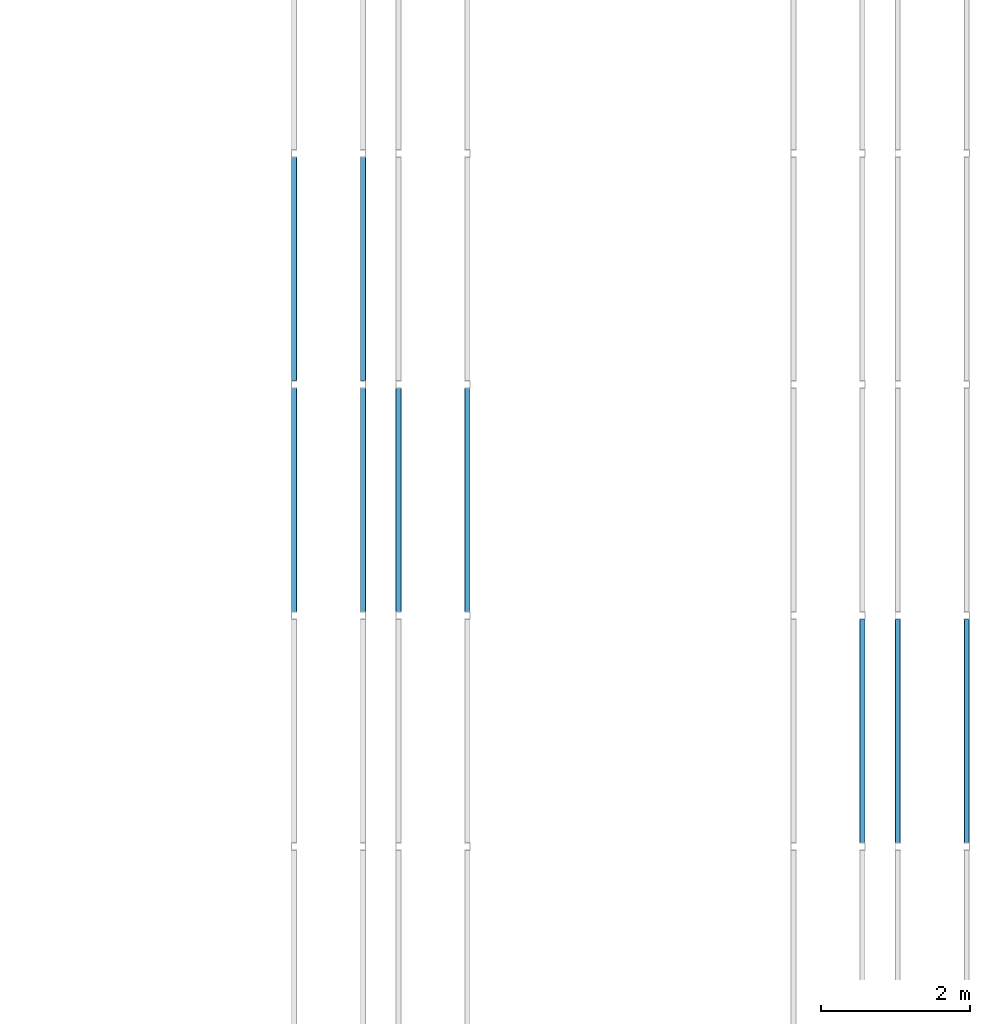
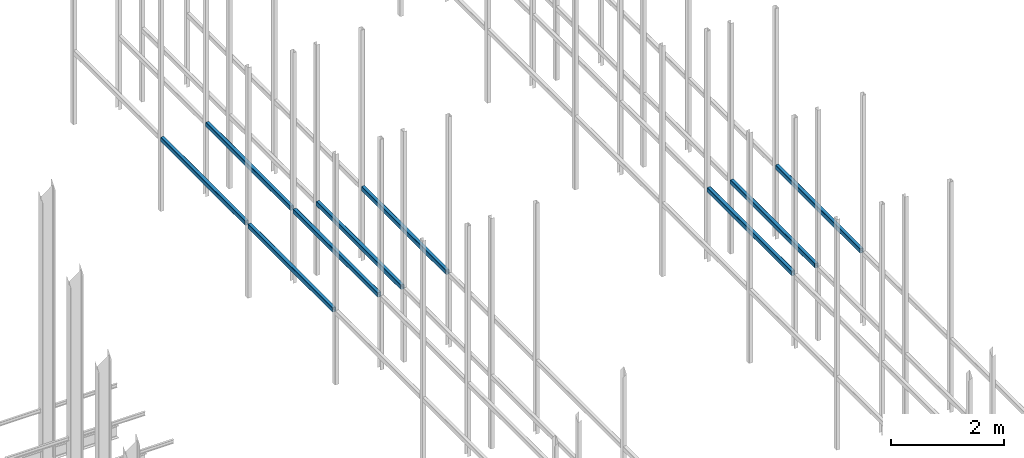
# One storey, part 188 of 302: 9 beams.
"""IFC2X3 building model written with IfcOpenShell, lengths in metres."""

from ifc_helpers import new_model, entity, si_unit, converted_unit, derived_unit, direction, frame, frame_2d, origin, place, context, subcontext, project, spatial, polyline, circle_curve, parameter, trimmed, segment, composite_curve, outline, extrude, material, type_object, element, save


model = new_model("IFC2X3")

# Units and contexts
model_context = context("Model", 3, precision=1e-05, world=origin(), true_north=direction((6.12303176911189e-17, 1.0)))
body_context = subcontext(model_context, "Body", "Model", "MODEL_VIEW")
ifc_project = project(units=[si_unit("LENGTHUNIT", "METRE"), si_unit("AREAUNIT", "SQUARE_METRE"), si_unit("VOLUMEUNIT", "CUBIC_METRE"), converted_unit("PLANEANGLEUNIT", "DEGREE", entity("IfcRatioMeasure", 0.0174532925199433), si_unit("PLANEANGLEUNIT", "RADIAN"), dimensions=[0, 0, 0, 0, 0, 0, 0]), si_unit("MASSUNIT", "GRAM", prefix="KILO"), derived_unit("MASSDENSITYUNIT", [(si_unit("MASSUNIT", "GRAM", prefix="KILO"), 1), (si_unit("LENGTHUNIT", "METRE"), -3)]), derived_unit("MOMENTOFINERTIAUNIT", [(si_unit("LENGTHUNIT", "METRE"), 4)]), si_unit("TIMEUNIT", "SECOND"), si_unit("FREQUENCYUNIT", "HERTZ"), si_unit("THERMODYNAMICTEMPERATUREUNIT", "DEGREE_CELSIUS"), derived_unit("THERMALTRANSMITTANCEUNIT", [(si_unit("MASSUNIT", "GRAM", prefix="KILO"), 1), (si_unit("THERMODYNAMICTEMPERATUREUNIT", "KELVIN"), -1), (si_unit("TIMEUNIT", "SECOND"), -3)]), derived_unit("VOLUMETRICFLOWRATEUNIT", [(si_unit("LENGTHUNIT", "METRE"), 3), (si_unit("TIMEUNIT", "SECOND"), -1)]), si_unit("ELECTRICCURRENTUNIT", "AMPERE"), si_unit("ELECTRICVOLTAGEUNIT", "VOLT"), si_unit("POWERUNIT", "WATT"), si_unit("FORCEUNIT", "NEWTON", prefix="KILO"), si_unit("ILLUMINANCEUNIT", "LUX"), si_unit("LUMINOUSFLUXUNIT", "LUMEN"), si_unit("LUMINOUSINTENSITYUNIT", "CANDELA"), derived_unit("USERDEFINED", [(si_unit("MASSUNIT", "GRAM", prefix="KILO"), -1), (si_unit("LENGTHUNIT", "METRE"), -2), (si_unit("TIMEUNIT", "SECOND"), 3), (si_unit("LUMINOUSFLUXUNIT", "LUMEN"), 1)]), derived_unit("LINEARVELOCITYUNIT", [(si_unit("LENGTHUNIT", "METRE"), 1), (si_unit("TIMEUNIT", "SECOND"), -1)]), si_unit("PRESSUREUNIT", "PASCAL"), derived_unit("USERDEFINED", [(si_unit("LENGTHUNIT", "METRE"), -2), (si_unit("MASSUNIT", "GRAM", prefix="KILO"), 1), (si_unit("TIMEUNIT", "SECOND"), -2)]), derived_unit("LINEARFORCEUNIT", [(si_unit("MASSUNIT", "GRAM", prefix="KILO"), 1), (si_unit("LENGTHUNIT", "METRE"), 1), (si_unit("TIMEUNIT", "SECOND"), -2), (si_unit("LENGTHUNIT", "METRE"), -1)]), derived_unit("PLANARFORCEUNIT", [(si_unit("MASSUNIT", "GRAM", prefix="KILO"), 1), (si_unit("LENGTHUNIT", "METRE"), 1), (si_unit("TIMEUNIT", "SECOND"), -2), (si_unit("LENGTHUNIT", "METRE"), -2)])], contexts=[model_context])

# Site, building, storey
site_placement = place(None, origin())
site = spatial("IfcSite", under=ifc_project, at=site_placement, Name="Default", CompositionType="ELEMENT")
building_placement = place(site_placement, origin())
building = spatial("IfcBuilding", under=site, at=building_placement, CompositionType="ELEMENT")
storey_placement = place(building_placement, frame((0.0, 0.0, -1.3)))
storey = spatial("IfcBuildingStorey", under=building, at=storey_placement, Name="00_EG", CompositionType="ELEMENT", Elevation=-1.3)

# Beams
ifc_material = material(Name="Metall - Baustahl S235 blau")
beam_type = type_object("IfcBeamType", Name="RHS Träger (EN 10219-2):RHS 100 x 75 x 5", PredefinedType="NOTDEFINED")
beam_1_placement = place(storey_placement, frame((-159.118311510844, 54.5480889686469, 2.885), z_axis=(0.0, 0.0, 1.0), x_axis=(0.0, 1.0, 0.0)))
element("IfcBeam", 1, at=beam_1_placement, inside=storey, type_object=beam_type, material=ifc_material, Name="RHS Träger (EN 10219-2):RHS 100 x 75 x 5", ObjectType="RHS Träger (EN 10219-2):RHS 100 x 75 x 5", context=body_context, shape_type="SweptSolid", body=[
    extrude(outline(composite_curve([segment(trimmed(circle_curve(frame_2d((-0.0274999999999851, -0.0400000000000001), x_axis=(1.0, 0.0)), 0.01), [parameter(180.0)], [parameter(270.0)], True, "PARAMETER"), True, "CONTINUOUS"), segment(polyline([(-0.0274999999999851, -0.05), (0.0274999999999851, -0.05)]), True, "CONTINUOUS"), segment(trimmed(circle_curve(frame_2d((0.0274999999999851, -0.0400000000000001), x_axis=(1.0, 0.0)), 0.01), [parameter(270.0)], [parameter(5.08888749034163e-14)], True, "PARAMETER"), True, "CONTINUOUS"), segment(polyline([(0.0375000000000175, -0.0399999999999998), (0.0375000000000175, 0.0400000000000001)]), True, "CONTINUOUS"), segment(trimmed(circle_curve(frame_2d((0.0274999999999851, 0.0399999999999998), x_axis=(1.0, 0.0)), 0.01), [parameter(360.0)], [parameter(89.9999999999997)], True, "PARAMETER"), True, "CONTINUOUS"), segment(polyline([(0.0274999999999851, 0.05), (-0.0274999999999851, 0.05)]), True, "CONTINUOUS"), segment(trimmed(circle_curve(frame_2d((-0.0274999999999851, 0.0399999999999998), x_axis=(1.0, 0.0)), 0.01), [parameter(90.0000000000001)], [parameter(180.0)], True, "PARAMETER"), True, "CONTINUOUS"), segment(polyline([(-0.0374999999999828, 0.0400000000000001), (-0.0374999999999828, -0.0399999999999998)]), True, "CONTINUOUS")], self_intersect=False), holes=[composite_curve([segment(polyline([(0.0274999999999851, -0.0450000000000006), (-0.0274999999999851, -0.0450000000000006)]), True, "CONTINUOUS"), segment(trimmed(circle_curve(frame_2d((-0.0274999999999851, -0.0400000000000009), x_axis=(1.0, 0.0)), 0.005), [parameter(180.0)], [parameter(270.0)], True, "PARAMETER"), False, "CONTINUOUS"), segment(polyline([(-0.0325000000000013, -0.0400000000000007), (-0.0325000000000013, 0.0399999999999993)]), True, "CONTINUOUS"), segment(trimmed(circle_curve(frame_2d((-0.0274999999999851, 0.039999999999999), x_axis=(1.0, 0.0)), 0.005), [parameter(90.0000000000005)], [parameter(180.0)], True, "PARAMETER"), False, "CONTINUOUS"), segment(polyline([(-0.0274999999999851, 0.0449999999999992), (0.0274999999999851, 0.0449999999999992)]), True, "CONTINUOUS"), segment(trimmed(circle_curve(frame_2d((0.0274999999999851, 0.039999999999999), x_axis=(1.0, 0.0)), 0.005), [parameter(0.0)], [parameter(90.0000000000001)], True, "PARAMETER"), False, "CONTINUOUS"), segment(polyline([(0.0325000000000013, 0.0399999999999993), (0.0325000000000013, -0.0400000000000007)]), True, "CONTINUOUS"), segment(trimmed(circle_curve(frame_2d((0.0274999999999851, -0.0400000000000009), x_axis=(1.0, 0.0)), 0.005), [parameter(270.0)], [parameter(4.07110999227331e-13)], True, "PARAMETER"), False, "CONTINUOUS")], self_intersect=False)]), frame((0.000100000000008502, 0.0375000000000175, -0.0500000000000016), z_axis=(1.0, 0.0, 0.0), x_axis=(0.0, -1.0, 0.0)), (0.0, 0.0, 1.0), 2.99979999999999),
])
beam_2_placement = place(storey_placement, frame((-158.268311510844, 54.5480889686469, 2.885), z_axis=(0.0, 0.0, 1.0), x_axis=(0.0, 1.0, 0.0)))
element("IfcBeam", 2, at=beam_2_placement, inside=storey, type_object=beam_type, material=ifc_material, Name="RHS Träger (EN 10219-2):RHS 100 x 75 x 5", ObjectType="RHS Träger (EN 10219-2):RHS 100 x 75 x 5", context=body_context, shape_type="SweptSolid", body=[
    extrude(outline(composite_curve([segment(polyline([(-0.0399999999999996, -0.0375000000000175), (0.0400000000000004, -0.0375000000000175)]), True, "CONTINUOUS"), segment(trimmed(circle_curve(frame_2d((0.0400000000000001, -0.0275000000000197), x_axis=(0.0, 1.0)), 0.01), [parameter(180.0)], [parameter(270.0)], True, "PARAMETER"), True, "CONTINUOUS"), segment(polyline([(0.0500000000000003, -0.0275000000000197), (0.0500000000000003, 0.0274999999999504)]), True, "CONTINUOUS"), segment(trimmed(circle_curve(frame_2d((0.0400000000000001, 0.0274999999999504), x_axis=(0.0, 1.0)), 0.01), [parameter(270.0)], [parameter(4.07110999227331e-13)], True, "PARAMETER"), True, "CONTINUOUS"), segment(polyline([(0.0400000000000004, 0.0374999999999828), (-0.0399999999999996, 0.0374999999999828)]), True, "CONTINUOUS"), segment(trimmed(circle_curve(frame_2d((-0.0399999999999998, 0.0274999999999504), x_axis=(0.0, 1.0)), 0.01), [parameter(360.0)], [parameter(90.0000000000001)], True, "PARAMETER"), True, "CONTINUOUS"), segment(polyline([(-0.0499999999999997, 0.0274999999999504), (-0.0499999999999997, -0.0275000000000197)]), True, "CONTINUOUS"), segment(trimmed(circle_curve(frame_2d((-0.0399999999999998, -0.0275000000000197), x_axis=(0.0, 1.0)), 0.01), [parameter(90.0000000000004)], [parameter(180.0)], True, "PARAMETER"), True, "CONTINUOUS")], self_intersect=False), holes=[composite_curve([segment(trimmed(circle_curve(frame_2d((-0.0400000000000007, 0.0274999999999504), x_axis=(0.0, 1.0)), 0.005), [parameter(360.0)], [parameter(89.9999999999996)], True, "PARAMETER"), False, "CONTINUOUS"), segment(polyline([(-0.0400000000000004, 0.0324999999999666), (0.0399999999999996, 0.0324999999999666)]), True, "CONTINUOUS"), segment(trimmed(circle_curve(frame_2d((0.0399999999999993, 0.0274999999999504), x_axis=(0.0, 1.0)), 0.005), [parameter(270.0)], [parameter(0.0)], True, "PARAMETER"), False, "CONTINUOUS"), segment(polyline([(0.0449999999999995, 0.0274999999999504), (0.0449999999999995, -0.0275000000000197)]), True, "CONTINUOUS"), segment(trimmed(circle_curve(frame_2d((0.0399999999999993, -0.0275000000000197), x_axis=(0.0, 1.0)), 0.005), [parameter(180.0)], [parameter(269.999999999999)], True, "PARAMETER"), False, "CONTINUOUS"), segment(polyline([(0.0399999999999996, -0.0325000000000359), (-0.0400000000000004, -0.0325000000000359)]), True, "CONTINUOUS"), segment(trimmed(circle_curve(frame_2d((-0.0400000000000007, -0.0275000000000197), x_axis=(0.0, 1.0)), 0.005), [parameter(90.0000000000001)], [parameter(180.0)], True, "PARAMETER"), False, "CONTINUOUS"), segment(polyline([(-0.0450000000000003, -0.0275000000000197), (-0.0450000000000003, 0.0274999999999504)]), True, "CONTINUOUS")], self_intersect=False)]), frame((9.99999999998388e-05, -0.0374999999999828, -0.0500000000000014), z_axis=(1.0, 0.0, 0.0), x_axis=(0.0, 0.0, -1.0)), (0.0, 0.0, 1.0), 2.99979999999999),
])
beam_3_placement = place(storey_placement, frame((-157.718311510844, 54.5480889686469, 2.885), z_axis=(0.0, 0.0, 1.0), x_axis=(0.0, 1.0, 0.0)))
element("IfcBeam", 3, at=beam_3_placement, inside=storey, type_object=beam_type, material=ifc_material, Name="RHS Träger (EN 10219-2):RHS 100 x 75 x 5", ObjectType="RHS Träger (EN 10219-2):RHS 100 x 75 x 5", context=body_context, shape_type="SweptSolid", body=[
    extrude(outline(composite_curve([segment(trimmed(circle_curve(frame_2d((-0.0274999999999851, -0.0400000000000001), x_axis=(1.0, 0.0)), 0.01), [parameter(180.0)], [parameter(270.0)], True, "PARAMETER"), True, "CONTINUOUS"), segment(polyline([(-0.0274999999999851, -0.05), (0.0274999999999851, -0.05)]), True, "CONTINUOUS"), segment(trimmed(circle_curve(frame_2d((0.0274999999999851, -0.0400000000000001), x_axis=(1.0, 0.0)), 0.01), [parameter(270.0)], [parameter(5.08888749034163e-14)], True, "PARAMETER"), True, "CONTINUOUS"), segment(polyline([(0.0375000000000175, -0.0399999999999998), (0.0375000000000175, 0.0400000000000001)]), True, "CONTINUOUS"), segment(trimmed(circle_curve(frame_2d((0.0274999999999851, 0.0399999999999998), x_axis=(1.0, 0.0)), 0.01), [parameter(360.0)], [parameter(89.9999999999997)], True, "PARAMETER"), True, "CONTINUOUS"), segment(polyline([(0.0274999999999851, 0.05), (-0.0274999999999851, 0.05)]), True, "CONTINUOUS"), segment(trimmed(circle_curve(frame_2d((-0.0274999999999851, 0.0399999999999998), x_axis=(1.0, 0.0)), 0.01), [parameter(90.0000000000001)], [parameter(180.0)], True, "PARAMETER"), True, "CONTINUOUS"), segment(polyline([(-0.0374999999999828, 0.0400000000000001), (-0.0374999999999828, -0.0399999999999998)]), True, "CONTINUOUS")], self_intersect=False), holes=[composite_curve([segment(polyline([(0.0274999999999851, -0.0450000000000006), (-0.0274999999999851, -0.0450000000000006)]), True, "CONTINUOUS"), segment(trimmed(circle_curve(frame_2d((-0.0274999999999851, -0.0400000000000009), x_axis=(1.0, 0.0)), 0.005), [parameter(180.0)], [parameter(270.0)], True, "PARAMETER"), False, "CONTINUOUS"), segment(polyline([(-0.0325000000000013, -0.0400000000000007), (-0.0325000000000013, 0.0399999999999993)]), True, "CONTINUOUS"), segment(trimmed(circle_curve(frame_2d((-0.0274999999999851, 0.039999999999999), x_axis=(1.0, 0.0)), 0.005), [parameter(90.0000000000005)], [parameter(180.0)], True, "PARAMETER"), False, "CONTINUOUS"), segment(polyline([(-0.0274999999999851, 0.0449999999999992), (0.0274999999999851, 0.0449999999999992)]), True, "CONTINUOUS"), segment(trimmed(circle_curve(frame_2d((0.0274999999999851, 0.039999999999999), x_axis=(1.0, 0.0)), 0.005), [parameter(0.0)], [parameter(90.0000000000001)], True, "PARAMETER"), False, "CONTINUOUS"), segment(polyline([(0.0325000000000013, 0.0399999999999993), (0.0325000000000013, -0.0400000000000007)]), True, "CONTINUOUS"), segment(trimmed(circle_curve(frame_2d((0.0274999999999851, -0.0400000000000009), x_axis=(1.0, 0.0)), 0.005), [parameter(270.0)], [parameter(4.07110999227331e-13)], True, "PARAMETER"), False, "CONTINUOUS")], self_intersect=False)]), frame((0.000100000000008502, 0.0375000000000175, -0.0500000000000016), z_axis=(1.0, 0.0, 0.0), x_axis=(0.0, -1.0, 0.0)), (0.0, 0.0, 1.0), 2.99979999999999),
])
beam_4_placement = place(storey_placement, frame((-156.868311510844, 54.5480889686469, 2.885), z_axis=(0.0, 0.0, 1.0), x_axis=(0.0, 1.0, 0.0)))
element("IfcBeam", 4, at=beam_4_placement, inside=storey, type_object=beam_type, material=ifc_material, Name="RHS Träger (EN 10219-2):RHS 100 x 75 x 5", ObjectType="RHS Träger (EN 10219-2):RHS 100 x 75 x 5", context=body_context, shape_type="SweptSolid", body=[
    extrude(outline(composite_curve([segment(polyline([(-0.0399999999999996, -0.0374999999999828), (0.0400000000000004, -0.0374999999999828)]), True, "CONTINUOUS"), segment(trimmed(circle_curve(frame_2d((0.0400000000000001, -0.0274999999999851), x_axis=(0.0, 1.0)), 0.01), [parameter(180.0)], [parameter(270.0)], True, "PARAMETER"), True, "CONTINUOUS"), segment(polyline([(0.0500000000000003, -0.0274999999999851), (0.0500000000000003, 0.0274999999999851)]), True, "CONTINUOUS"), segment(trimmed(circle_curve(frame_2d((0.0400000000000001, 0.0274999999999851), x_axis=(0.0, 1.0)), 0.01), [parameter(270.0)], [parameter(4.07110999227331e-13)], True, "PARAMETER"), True, "CONTINUOUS"), segment(polyline([(0.0400000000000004, 0.0375000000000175), (-0.0399999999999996, 0.0375000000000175)]), True, "CONTINUOUS"), segment(trimmed(circle_curve(frame_2d((-0.0399999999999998, 0.0274999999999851), x_axis=(0.0, 1.0)), 0.01), [parameter(360.0)], [parameter(90.0000000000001)], True, "PARAMETER"), True, "CONTINUOUS"), segment(polyline([(-0.0499999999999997, 0.0274999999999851), (-0.0499999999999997, -0.0274999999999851)]), True, "CONTINUOUS"), segment(trimmed(circle_curve(frame_2d((-0.0399999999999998, -0.0274999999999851), x_axis=(0.0, 1.0)), 0.01), [parameter(90.0000000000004)], [parameter(180.0)], True, "PARAMETER"), True, "CONTINUOUS")], self_intersect=False), holes=[composite_curve([segment(trimmed(circle_curve(frame_2d((-0.0400000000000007, 0.0274999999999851), x_axis=(0.0, 1.0)), 0.005), [parameter(360.0)], [parameter(89.9999999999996)], True, "PARAMETER"), False, "CONTINUOUS"), segment(polyline([(-0.0400000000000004, 0.0325000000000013), (0.0399999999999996, 0.0325000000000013)]), True, "CONTINUOUS"), segment(trimmed(circle_curve(frame_2d((0.0399999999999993, 0.0274999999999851), x_axis=(0.0, 1.0)), 0.005), [parameter(270.0)], [parameter(0.0)], True, "PARAMETER"), False, "CONTINUOUS"), segment(polyline([(0.0449999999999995, 0.0274999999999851), (0.0449999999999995, -0.0274999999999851)]), True, "CONTINUOUS"), segment(trimmed(circle_curve(frame_2d((0.0399999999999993, -0.0274999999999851), x_axis=(0.0, 1.0)), 0.005), [parameter(180.0)], [parameter(269.999999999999)], True, "PARAMETER"), False, "CONTINUOUS"), segment(polyline([(0.0399999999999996, -0.0325000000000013), (-0.0400000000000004, -0.0325000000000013)]), True, "CONTINUOUS"), segment(trimmed(circle_curve(frame_2d((-0.0400000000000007, -0.0274999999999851), x_axis=(0.0, 1.0)), 0.005), [parameter(90.0000000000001)], [parameter(180.0)], True, "PARAMETER"), False, "CONTINUOUS"), segment(polyline([(-0.0450000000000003, -0.0274999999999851), (-0.0450000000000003, 0.0274999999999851)]), True, "CONTINUOUS")], self_intersect=False)]), frame((9.99999999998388e-05, -0.0375000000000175, -0.0500000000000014), z_axis=(1.0, 0.0, 0.0), x_axis=(0.0, 0.0, -1.0)), (0.0, 0.0, 1.0), 2.99979999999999),
])
beam_5_placement = place(storey_placement, frame((-159.118311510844, 57.6480889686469, 2.885), z_axis=(0.0, 0.0, 1.0), x_axis=(0.0, 1.0, 0.0)))
element("IfcBeam", 5, at=beam_5_placement, inside=storey, type_object=beam_type, material=ifc_material, Name="RHS Träger (EN 10219-2):RHS 100 x 75 x 5", ObjectType="RHS Träger (EN 10219-2):RHS 100 x 75 x 5", context=body_context, shape_type="SweptSolid", body=[
    extrude(outline(composite_curve([segment(trimmed(circle_curve(frame_2d((-0.0274999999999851, -0.0400000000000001), x_axis=(1.0, 0.0)), 0.01), [parameter(180.0)], [parameter(270.0)], True, "PARAMETER"), True, "CONTINUOUS"), segment(polyline([(-0.0274999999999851, -0.05), (0.0274999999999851, -0.05)]), True, "CONTINUOUS"), segment(trimmed(circle_curve(frame_2d((0.0274999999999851, -0.0400000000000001), x_axis=(1.0, 0.0)), 0.01), [parameter(270.0)], [parameter(5.08888749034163e-14)], True, "PARAMETER"), True, "CONTINUOUS"), segment(polyline([(0.0375000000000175, -0.0399999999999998), (0.0375000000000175, 0.0400000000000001)]), True, "CONTINUOUS"), segment(trimmed(circle_curve(frame_2d((0.0274999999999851, 0.0399999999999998), x_axis=(1.0, 0.0)), 0.01), [parameter(360.0)], [parameter(89.9999999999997)], True, "PARAMETER"), True, "CONTINUOUS"), segment(polyline([(0.0274999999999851, 0.05), (-0.0274999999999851, 0.05)]), True, "CONTINUOUS"), segment(trimmed(circle_curve(frame_2d((-0.0274999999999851, 0.0399999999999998), x_axis=(1.0, 0.0)), 0.01), [parameter(90.0000000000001)], [parameter(180.0)], True, "PARAMETER"), True, "CONTINUOUS"), segment(polyline([(-0.0374999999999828, 0.0400000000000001), (-0.0374999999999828, -0.0399999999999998)]), True, "CONTINUOUS")], self_intersect=False), holes=[composite_curve([segment(polyline([(0.0274999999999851, -0.0450000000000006), (-0.0274999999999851, -0.0450000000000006)]), True, "CONTINUOUS"), segment(trimmed(circle_curve(frame_2d((-0.0274999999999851, -0.0400000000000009), x_axis=(1.0, 0.0)), 0.005), [parameter(180.0)], [parameter(270.0)], True, "PARAMETER"), False, "CONTINUOUS"), segment(polyline([(-0.0325000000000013, -0.0400000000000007), (-0.0325000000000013, 0.0399999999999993)]), True, "CONTINUOUS"), segment(trimmed(circle_curve(frame_2d((-0.0274999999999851, 0.039999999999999), x_axis=(1.0, 0.0)), 0.005), [parameter(90.0000000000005)], [parameter(180.0)], True, "PARAMETER"), False, "CONTINUOUS"), segment(polyline([(-0.0274999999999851, 0.0449999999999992), (0.0274999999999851, 0.0449999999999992)]), True, "CONTINUOUS"), segment(trimmed(circle_curve(frame_2d((0.0274999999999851, 0.039999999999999), x_axis=(1.0, 0.0)), 0.005), [parameter(0.0)], [parameter(90.0000000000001)], True, "PARAMETER"), False, "CONTINUOUS"), segment(polyline([(0.0325000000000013, 0.0399999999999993), (0.0325000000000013, -0.0400000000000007)]), True, "CONTINUOUS"), segment(trimmed(circle_curve(frame_2d((0.0274999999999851, -0.0400000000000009), x_axis=(1.0, 0.0)), 0.005), [parameter(270.0)], [parameter(4.07110999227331e-13)], True, "PARAMETER"), False, "CONTINUOUS")], self_intersect=False)]), frame((0.000100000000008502, 0.0375000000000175, -0.0500000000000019), z_axis=(1.0, 0.0, 0.0), x_axis=(0.0, -1.0, 0.0)), (0.0, 0.0, 1.0), 2.99979999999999),
])
beam_6_placement = place(storey_placement, frame((-158.268311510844, 57.6480889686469, 2.885), z_axis=(0.0, 0.0, 1.0), x_axis=(0.0, 1.0, 0.0)))
element("IfcBeam", 6, at=beam_6_placement, inside=storey, type_object=beam_type, material=ifc_material, Name="RHS Träger (EN 10219-2):RHS 100 x 75 x 5", ObjectType="RHS Träger (EN 10219-2):RHS 100 x 75 x 5", context=body_context, shape_type="SweptSolid", body=[
    extrude(outline(composite_curve([segment(polyline([(-0.0399999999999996, -0.0375000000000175), (0.0400000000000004, -0.0375000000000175)]), True, "CONTINUOUS"), segment(trimmed(circle_curve(frame_2d((0.0400000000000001, -0.0275000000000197), x_axis=(0.0, 1.0)), 0.01), [parameter(180.0)], [parameter(270.0)], True, "PARAMETER"), True, "CONTINUOUS"), segment(polyline([(0.0500000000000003, -0.0275000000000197), (0.0500000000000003, 0.0274999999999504)]), True, "CONTINUOUS"), segment(trimmed(circle_curve(frame_2d((0.0400000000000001, 0.0274999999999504), x_axis=(0.0, 1.0)), 0.01), [parameter(270.0)], [parameter(4.07110999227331e-13)], True, "PARAMETER"), True, "CONTINUOUS"), segment(polyline([(0.0400000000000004, 0.0374999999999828), (-0.0399999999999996, 0.0374999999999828)]), True, "CONTINUOUS"), segment(trimmed(circle_curve(frame_2d((-0.0399999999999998, 0.0274999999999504), x_axis=(0.0, 1.0)), 0.01), [parameter(360.0)], [parameter(90.0000000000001)], True, "PARAMETER"), True, "CONTINUOUS"), segment(polyline([(-0.0499999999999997, 0.0274999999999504), (-0.0499999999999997, -0.0275000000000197)]), True, "CONTINUOUS"), segment(trimmed(circle_curve(frame_2d((-0.0399999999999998, -0.0275000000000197), x_axis=(0.0, 1.0)), 0.01), [parameter(90.0000000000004)], [parameter(180.0)], True, "PARAMETER"), True, "CONTINUOUS")], self_intersect=False), holes=[composite_curve([segment(trimmed(circle_curve(frame_2d((-0.0400000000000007, 0.0274999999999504), x_axis=(0.0, 1.0)), 0.005), [parameter(360.0)], [parameter(89.9999999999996)], True, "PARAMETER"), False, "CONTINUOUS"), segment(polyline([(-0.0400000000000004, 0.0324999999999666), (0.0399999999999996, 0.0324999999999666)]), True, "CONTINUOUS"), segment(trimmed(circle_curve(frame_2d((0.0399999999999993, 0.0274999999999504), x_axis=(0.0, 1.0)), 0.005), [parameter(270.0)], [parameter(0.0)], True, "PARAMETER"), False, "CONTINUOUS"), segment(polyline([(0.0449999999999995, 0.0274999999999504), (0.0449999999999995, -0.0275000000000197)]), True, "CONTINUOUS"), segment(trimmed(circle_curve(frame_2d((0.0399999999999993, -0.0275000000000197), x_axis=(0.0, 1.0)), 0.005), [parameter(180.0)], [parameter(269.999999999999)], True, "PARAMETER"), False, "CONTINUOUS"), segment(polyline([(0.0399999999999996, -0.0325000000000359), (-0.0400000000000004, -0.0325000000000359)]), True, "CONTINUOUS"), segment(trimmed(circle_curve(frame_2d((-0.0400000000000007, -0.0275000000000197), x_axis=(0.0, 1.0)), 0.005), [parameter(90.0000000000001)], [parameter(180.0)], True, "PARAMETER"), False, "CONTINUOUS"), segment(polyline([(-0.0450000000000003, -0.0275000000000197), (-0.0450000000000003, 0.0274999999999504)]), True, "CONTINUOUS")], self_intersect=False)]), frame((0.000100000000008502, -0.0374999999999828, -0.0500000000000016), z_axis=(1.0, 0.0, 0.0), x_axis=(0.0, 0.0, -1.0)), (0.0, 0.0, 1.0), 2.99979999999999),
])
beam_7_placement = place(storey_placement, frame((-151.568311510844, 51.4480889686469, 2.885), z_axis=(0.0, 0.0, 1.0), x_axis=(0.0, 1.0, 0.0)))
element("IfcBeam", 7, at=beam_7_placement, inside=storey, type_object=beam_type, material=ifc_material, Name="RHS Träger (EN 10219-2):RHS 100 x 75 x 5", ObjectType="RHS Träger (EN 10219-2):RHS 100 x 75 x 5", context=body_context, shape_type="SweptSolid", body=[
    extrude(outline(composite_curve([segment(polyline([(-0.0399999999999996, -0.0374999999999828), (0.0400000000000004, -0.0374999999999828)]), True, "CONTINUOUS"), segment(trimmed(circle_curve(frame_2d((0.0400000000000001, -0.0274999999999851), x_axis=(0.0, 1.0)), 0.01), [parameter(180.0)], [parameter(270.0)], True, "PARAMETER"), True, "CONTINUOUS"), segment(polyline([(0.0500000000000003, -0.0274999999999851), (0.0500000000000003, 0.0275000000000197)]), True, "CONTINUOUS"), segment(trimmed(circle_curve(frame_2d((0.0400000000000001, 0.0275000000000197), x_axis=(0.0, 1.0)), 0.01), [parameter(270.0)], [parameter(4.07110999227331e-13)], True, "PARAMETER"), True, "CONTINUOUS"), segment(polyline([(0.0400000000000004, 0.0375000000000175), (-0.0399999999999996, 0.0375000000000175)]), True, "CONTINUOUS"), segment(trimmed(circle_curve(frame_2d((-0.0399999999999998, 0.0275000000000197), x_axis=(0.0, 1.0)), 0.01), [parameter(360.0)], [parameter(90.0000000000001)], True, "PARAMETER"), True, "CONTINUOUS"), segment(polyline([(-0.0499999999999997, 0.0275000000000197), (-0.0499999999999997, -0.0274999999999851)]), True, "CONTINUOUS"), segment(trimmed(circle_curve(frame_2d((-0.0399999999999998, -0.0274999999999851), x_axis=(0.0, 1.0)), 0.01), [parameter(90.0000000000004)], [parameter(180.0)], True, "PARAMETER"), True, "CONTINUOUS")], self_intersect=False), holes=[composite_curve([segment(trimmed(circle_curve(frame_2d((-0.0400000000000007, 0.0275000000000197), x_axis=(0.0, 1.0)), 0.005), [parameter(360.0)], [parameter(89.9999999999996)], True, "PARAMETER"), False, "CONTINUOUS"), segment(polyline([(-0.0400000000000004, 0.0325000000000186), (0.0399999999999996, 0.0325000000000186)]), True, "CONTINUOUS"), segment(trimmed(circle_curve(frame_2d((0.0399999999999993, 0.0275000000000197), x_axis=(0.0, 1.0)), 0.005), [parameter(270.0)], [parameter(0.0)], True, "PARAMETER"), False, "CONTINUOUS"), segment(polyline([(0.0449999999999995, 0.0275000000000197), (0.0449999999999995, -0.0274999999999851)]), True, "CONTINUOUS"), segment(trimmed(circle_curve(frame_2d((0.0399999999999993, -0.0274999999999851), x_axis=(0.0, 1.0)), 0.005), [parameter(180.0)], [parameter(269.999999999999)], True, "PARAMETER"), False, "CONTINUOUS"), segment(polyline([(0.0399999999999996, -0.0324999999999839), (-0.0400000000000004, -0.0324999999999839)]), True, "CONTINUOUS"), segment(trimmed(circle_curve(frame_2d((-0.0400000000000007, -0.0274999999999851), x_axis=(0.0, 1.0)), 0.005), [parameter(90.0000000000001)], [parameter(180.0)], True, "PARAMETER"), False, "CONTINUOUS"), segment(polyline([(-0.0450000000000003, -0.0274999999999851), (-0.0450000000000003, 0.0275000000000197)]), True, "CONTINUOUS")], self_intersect=False)]), frame((9.99999999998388e-05, -0.0375000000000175, -0.0500000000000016), z_axis=(1.0, 0.0, 0.0), x_axis=(0.0, 0.0, -1.0)), (0.0, 0.0, 1.0), 2.99979999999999),
])
beam_8_placement = place(storey_placement, frame((-151.018311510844, 51.4480889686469, 2.885), z_axis=(0.0, 0.0, 1.0), x_axis=(0.0, 1.0, 0.0)))
element("IfcBeam", 8, at=beam_8_placement, inside=storey, type_object=beam_type, material=ifc_material, Name="RHS Träger (EN 10219-2):RHS 100 x 75 x 5", ObjectType="RHS Träger (EN 10219-2):RHS 100 x 75 x 5", context=body_context, shape_type="SweptSolid", body=[
    extrude(outline(composite_curve([segment(trimmed(circle_curve(frame_2d((-0.0275000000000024, -0.0400000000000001), x_axis=(1.0, 0.0)), 0.01), [parameter(180.0)], [parameter(270.0)], True, "PARAMETER"), True, "CONTINUOUS"), segment(polyline([(-0.0275000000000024, -0.05), (0.0275000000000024, -0.05)]), True, "CONTINUOUS"), segment(trimmed(circle_curve(frame_2d((0.0275000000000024, -0.0400000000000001), x_axis=(1.0, 0.0)), 0.01), [parameter(270.0)], [parameter(5.08888749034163e-14)], True, "PARAMETER"), True, "CONTINUOUS"), segment(polyline([(0.0375000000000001, -0.0399999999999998), (0.0375000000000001, 0.0400000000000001)]), True, "CONTINUOUS"), segment(trimmed(circle_curve(frame_2d((0.0275000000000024, 0.0399999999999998), x_axis=(1.0, 0.0)), 0.01), [parameter(360.0)], [parameter(89.9999999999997)], True, "PARAMETER"), True, "CONTINUOUS"), segment(polyline([(0.0275000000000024, 0.05), (-0.0275000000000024, 0.05)]), True, "CONTINUOUS"), segment(trimmed(circle_curve(frame_2d((-0.0275000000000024, 0.0399999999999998), x_axis=(1.0, 0.0)), 0.01), [parameter(90.0000000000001)], [parameter(180.0)], True, "PARAMETER"), True, "CONTINUOUS"), segment(polyline([(-0.0375000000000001, 0.0400000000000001), (-0.0375000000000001, -0.0399999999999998)]), True, "CONTINUOUS")], self_intersect=False), holes=[composite_curve([segment(polyline([(0.0275000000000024, -0.0450000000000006), (-0.0275000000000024, -0.0450000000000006)]), True, "CONTINUOUS"), segment(trimmed(circle_curve(frame_2d((-0.0275000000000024, -0.0400000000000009), x_axis=(1.0, 0.0)), 0.005), [parameter(180.0)], [parameter(270.0)], True, "PARAMETER"), False, "CONTINUOUS"), segment(polyline([(-0.0325000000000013, -0.0400000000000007), (-0.0325000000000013, 0.0399999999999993)]), True, "CONTINUOUS"), segment(trimmed(circle_curve(frame_2d((-0.0275000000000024, 0.039999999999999), x_axis=(1.0, 0.0)), 0.005), [parameter(90.0000000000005)], [parameter(180.0)], True, "PARAMETER"), False, "CONTINUOUS"), segment(polyline([(-0.0275000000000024, 0.0449999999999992), (0.0275000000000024, 0.0449999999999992)]), True, "CONTINUOUS"), segment(trimmed(circle_curve(frame_2d((0.0275000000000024, 0.039999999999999), x_axis=(1.0, 0.0)), 0.005), [parameter(0.0)], [parameter(90.0000000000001)], True, "PARAMETER"), False, "CONTINUOUS"), segment(polyline([(0.0325000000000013, 0.0399999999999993), (0.0325000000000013, -0.0400000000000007)]), True, "CONTINUOUS"), segment(trimmed(circle_curve(frame_2d((0.0275000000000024, -0.0400000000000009), x_axis=(1.0, 0.0)), 0.005), [parameter(270.0)], [parameter(4.07110999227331e-13)], True, "PARAMETER"), False, "CONTINUOUS")], self_intersect=False)]), frame((9.99999999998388e-05, 0.0375000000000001, -0.0500000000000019), z_axis=(1.0, 0.0, 0.0), x_axis=(0.0, -1.0, 0.0)), (0.0, 0.0, 1.0), 2.99979999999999),
])
beam_9_placement = place(storey_placement, frame((-150.168311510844, 51.4480889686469, 2.885), z_axis=(0.0, 0.0, 1.0), x_axis=(0.0, 1.0, 0.0)))
element("IfcBeam", 9, at=beam_9_placement, inside=storey, type_object=beam_type, material=ifc_material, Name="RHS Träger (EN 10219-2):RHS 100 x 75 x 5", ObjectType="RHS Träger (EN 10219-2):RHS 100 x 75 x 5", context=body_context, shape_type="SweptSolid", body=[
    extrude(outline(composite_curve([segment(polyline([(-0.0399999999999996, -0.0375000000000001), (0.0400000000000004, -0.0375000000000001)]), True, "CONTINUOUS"), segment(trimmed(circle_curve(frame_2d((0.0400000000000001, -0.0275000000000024), x_axis=(0.0, 1.0)), 0.01), [parameter(180.0)], [parameter(270.0)], True, "PARAMETER"), True, "CONTINUOUS"), segment(polyline([(0.0500000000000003, -0.0275000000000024), (0.0500000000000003, 0.0275000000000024)]), True, "CONTINUOUS"), segment(trimmed(circle_curve(frame_2d((0.0400000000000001, 0.0275000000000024), x_axis=(0.0, 1.0)), 0.01), [parameter(270.0)], [parameter(4.07110999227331e-13)], True, "PARAMETER"), True, "CONTINUOUS"), segment(polyline([(0.0400000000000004, 0.0375000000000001), (-0.0399999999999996, 0.0375000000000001)]), True, "CONTINUOUS"), segment(trimmed(circle_curve(frame_2d((-0.0399999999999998, 0.0275000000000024), x_axis=(0.0, 1.0)), 0.01), [parameter(360.0)], [parameter(90.0000000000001)], True, "PARAMETER"), True, "CONTINUOUS"), segment(polyline([(-0.0499999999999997, 0.0275000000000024), (-0.0499999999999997, -0.0275000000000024)]), True, "CONTINUOUS"), segment(trimmed(circle_curve(frame_2d((-0.0399999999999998, -0.0275000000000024), x_axis=(0.0, 1.0)), 0.01), [parameter(90.0000000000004)], [parameter(180.0)], True, "PARAMETER"), True, "CONTINUOUS")], self_intersect=False), holes=[composite_curve([segment(trimmed(circle_curve(frame_2d((-0.0400000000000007, 0.0275000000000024), x_axis=(0.0, 1.0)), 0.005), [parameter(360.0)], [parameter(89.9999999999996)], True, "PARAMETER"), False, "CONTINUOUS"), segment(polyline([(-0.0400000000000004, 0.0325000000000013), (0.0399999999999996, 0.0325000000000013)]), True, "CONTINUOUS"), segment(trimmed(circle_curve(frame_2d((0.0399999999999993, 0.0275000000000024), x_axis=(0.0, 1.0)), 0.005), [parameter(270.0)], [parameter(0.0)], True, "PARAMETER"), False, "CONTINUOUS"), segment(polyline([(0.0449999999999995, 0.0275000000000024), (0.0449999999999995, -0.0275000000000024)]), True, "CONTINUOUS"), segment(trimmed(circle_curve(frame_2d((0.0399999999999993, -0.0275000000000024), x_axis=(0.0, 1.0)), 0.005), [parameter(180.0)], [parameter(269.999999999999)], True, "PARAMETER"), False, "CONTINUOUS"), segment(polyline([(0.0399999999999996, -0.0325000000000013), (-0.0400000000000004, -0.0325000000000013)]), True, "CONTINUOUS"), segment(trimmed(circle_curve(frame_2d((-0.0400000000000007, -0.0275000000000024), x_axis=(0.0, 1.0)), 0.005), [parameter(90.0000000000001)], [parameter(180.0)], True, "PARAMETER"), False, "CONTINUOUS"), segment(polyline([(-0.0450000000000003, -0.0275000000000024), (-0.0450000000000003, 0.0275000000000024)]), True, "CONTINUOUS")], self_intersect=False)]), frame((9.99999999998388e-05, -0.0375000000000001, -0.0500000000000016), z_axis=(1.0, 0.0, 0.0), x_axis=(0.0, 0.0, -1.0)), (0.0, 0.0, 1.0), 2.99979999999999),
])

save(model, "model.ifc")
